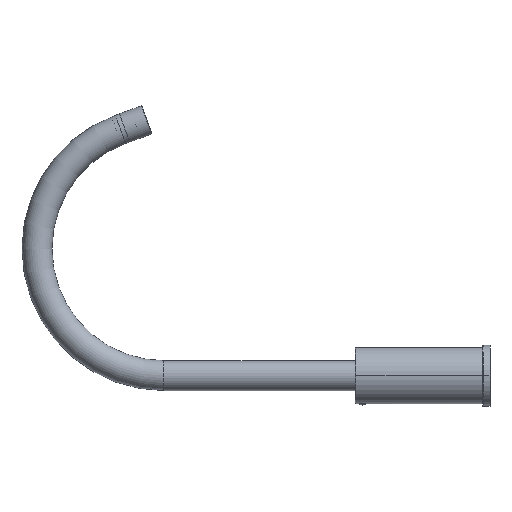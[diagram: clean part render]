
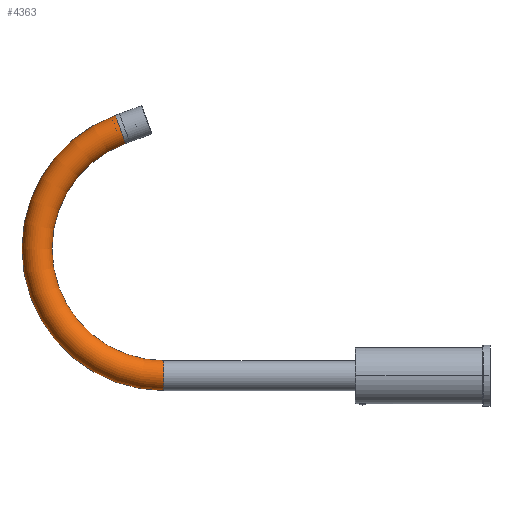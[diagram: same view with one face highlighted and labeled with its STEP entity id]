
A CAD part, left-side view. The second image highlights one B-rep face of the part: STEP entity #4363.
In plain terms, the highlighted toroidal (fillet/blend) face has major radius 101.735 mm and minor radius 12 mm.
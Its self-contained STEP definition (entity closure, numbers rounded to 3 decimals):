
#4000=CARTESIAN_POINT('',(0.,176.265,0.));
#4001=DIRECTION('',(0.,1.,0.));
#4002=DIRECTION('',(-1.,0.,0.));
#4003=AXIS2_PLACEMENT_3D('',#4000,#4001,#4002);
#4005=CARTESIAN_POINT('',(101.735,176.265,0.));
#4006=DIRECTION('',(0.,0.,-1.));
#4007=DIRECTION('',(-1.,0.,0.));
#4008=AXIS2_PLACEMENT_3D('',#4005,#4006,#4007);
#4043=CARTESIAN_POINT('',(101.735,176.265,0.));
#4044=DIRECTION('',(0.,0.,-1.));
#4045=DIRECTION('',(-1.,0.,0.));
#4046=AXIS2_PLACEMENT_3D('',#4043,#4044,#4045);
#4057=CARTESIAN_POINT('',(197.335,211.06,0.));
#4058=DIRECTION('',(0.342,-0.94,0.));
#4059=DIRECTION('',(0.94,0.342,0.));
#4060=AXIS2_PLACEMENT_3D('',#4057,#4058,#4059);
#4286=CARTESIAN_POINT('',(-12.,176.265,0.));
#4287=CARTESIAN_POINT('',(12.,176.265,0.));
#4288=VERTEX_POINT('',#4286);
#4289=VERTEX_POINT('',#4287);
#4290=CARTESIAN_POINT('',(208.611,215.165,0.));
#4291=CARTESIAN_POINT('',(186.058,206.956,0.));
#4292=VERTEX_POINT('',#4290);
#4293=VERTEX_POINT('',#4291);
#4348=CARTESIAN_POINT('',(101.735,176.265,0.));
#4349=DIRECTION('',(0.,0.,-1.));
#4350=DIRECTION('',(1.,0.,0.));
#4351=AXIS2_PLACEMENT_3D('',#4348,#4349,#4350);
#4352=TOROIDAL_SURFACE('',#4351,101.735,12.);
#4354=ORIENTED_EDGE('',*,*,#4353,.F.);
#4356=ORIENTED_EDGE('',*,*,#4355,.T.);
#4358=ORIENTED_EDGE('',*,*,#4357,.T.);
#4360=ORIENTED_EDGE('',*,*,#4359,.F.);
#4361=EDGE_LOOP('',(#4354,#4356,#4358,#4360));
#4362=FACE_OUTER_BOUND('',#4361,.F.);
#4004=CIRCLE('',#4003,12.);
#4009=CIRCLE('',#4008,113.735);
#4047=CIRCLE('',#4046,89.735);
#4061=CIRCLE('',#4060,12.);
#4353=EDGE_CURVE('',#4288,#4289,#4004,.T.);
#4355=EDGE_CURVE('',#4288,#4292,#4009,.T.);
#4357=EDGE_CURVE('',#4292,#4293,#4061,.T.);
#4359=EDGE_CURVE('',#4289,#4293,#4047,.T.);
#4363=ADVANCED_FACE('',(#4362),#4352,.T.);
